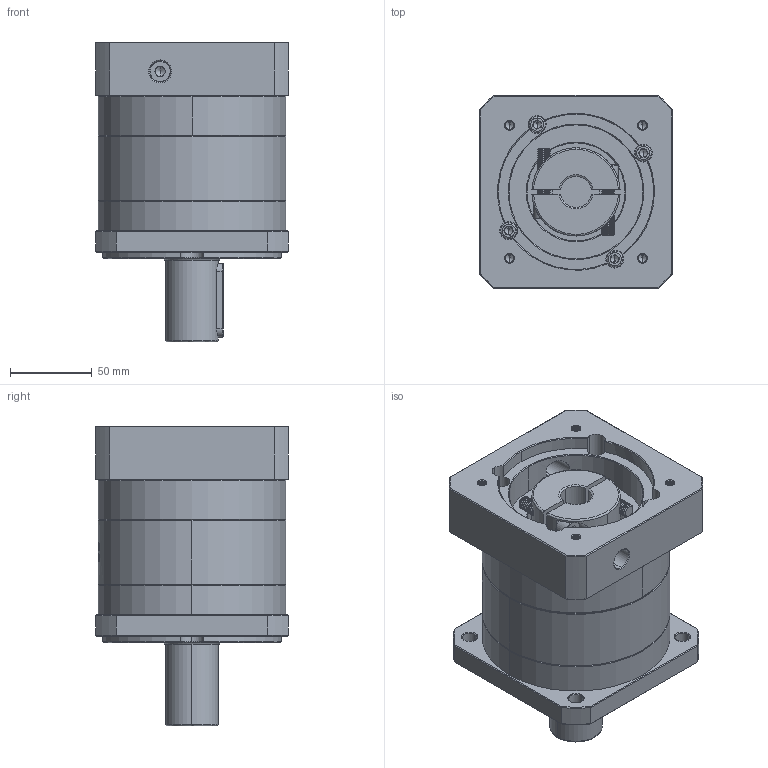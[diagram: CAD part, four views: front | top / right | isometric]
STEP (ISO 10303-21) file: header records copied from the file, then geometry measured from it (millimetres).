
FILE_DESCRIPTION (( 'STEP AP214' ), '1' );
FILE_NAME ('ZF120A-D32-L1-P2-19-95-115-M6.step', '2023-08-27T04:43:21', ( '' ), ( '' ), 'SwSTEP 2.0', 'SolidWorks 2016', '' );
FILE_SCHEMA (( 'AUTOMOTIVE_DESIGN' ));
Length unit declared in the file: millimetre
Products named in the file (1): ZF120A-D32-L1-P2-19-95-115-M6
Bounding box: 118 x 118 x 183.5 mm (x, y, z)
Volume: 1380257.1 mm3; surface area: 159443.6 mm2
Topology: 6 solids, 6 shells, 2235 faces, 5954 edges, 3820 vertices
Faces by surface type: plane 1034, bspline 439, cylinder 421, cone 341
Entity records: 123115 total; most frequent: CARTESIAN_POINT 48326, ORIENTED_EDGE 11848, DIRECTION 8602, EDGE_CURVE 5924, VERTEX_POINT 3820, LINE 3100, VECTOR 3100, AXIS2_PLACEMENT_3D 2751
